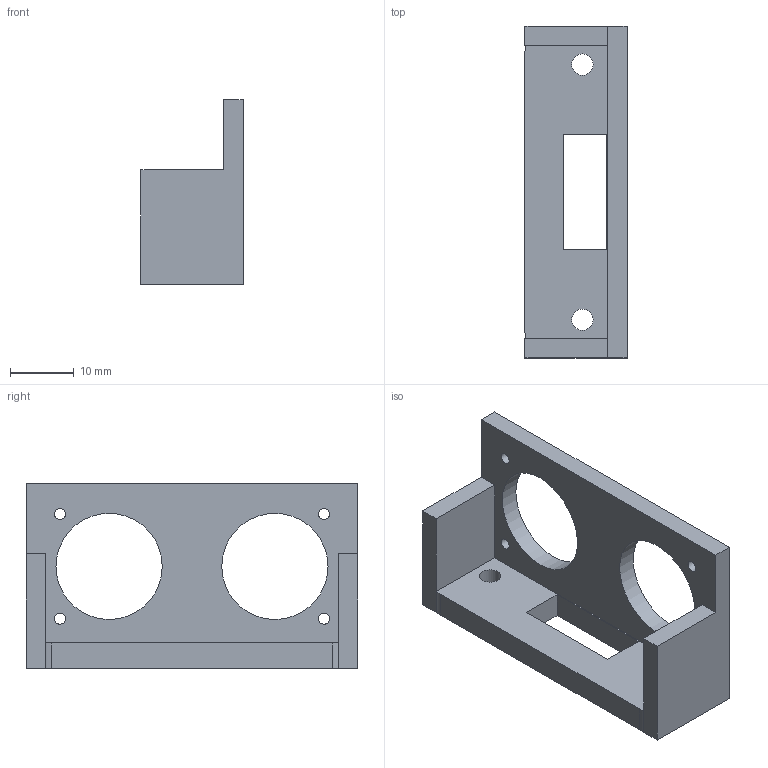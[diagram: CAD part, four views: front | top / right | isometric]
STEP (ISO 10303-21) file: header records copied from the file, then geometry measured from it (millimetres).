
FILE_DESCRIPTION(('Open CASCADE Model'),'2;1');
FILE_NAME('Open CASCADE Shape Model','2026-11-19T06:41:45',('Author'),( 'Open CASCADE'),'Open CASCADE STEP processor 8.0','Open CASCADE 8.0' ,'Unknown');
FILE_SCHEMA(('AUTOMOTIVE_DESIGN { 1 0 10303 214 1 1 1 1 }'));
Length unit declared in the file: millimetre
Products named in the file (1): Open CASCADE STEP translator 8.0 35
Bounding box: 16 x 52 x 29 mm (x, y, z)
Volume: 6424.3 mm3; surface area: 5179.1 mm2
Topology: 1 solids, 1 shells, 28 faces, 78 edges, 52 vertices
Faces by surface type: plane 18, cylinder 10
Full cylindrical faces by diameter (mm): 1.75 x4, 3.35 x2, 16.65 x2
Entity records: 1942 total; most frequent: CARTESIAN_POINT 353, DIRECTION 284, LINE 168, VECTOR 168, ORIENTED_EDGE 156, PCURVE 156, DEFINITIONAL_REPRESENTATION 156, EDGE_CURVE 78
